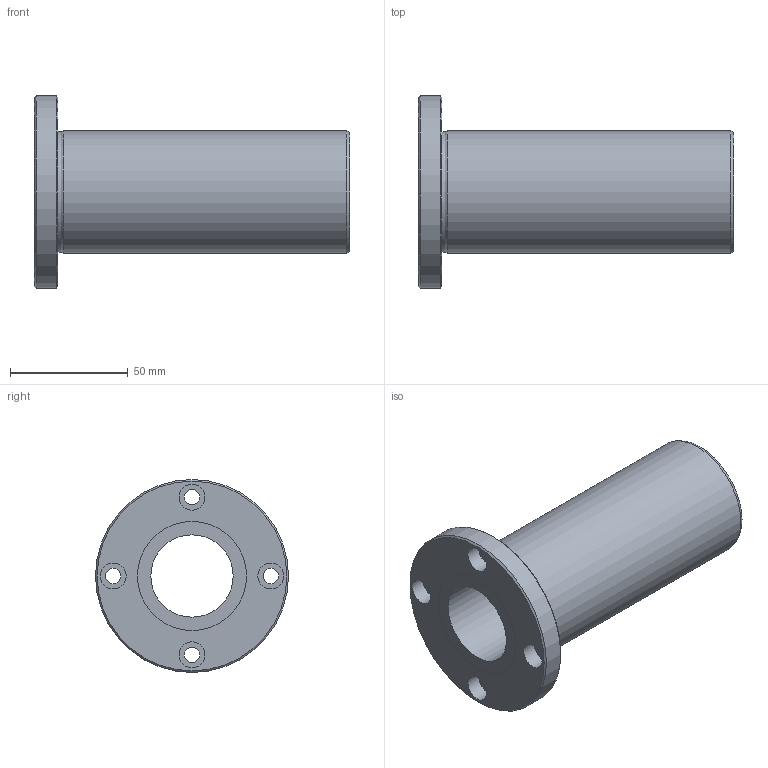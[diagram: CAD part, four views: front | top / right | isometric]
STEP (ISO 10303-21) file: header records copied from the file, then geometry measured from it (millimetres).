
FILE_DESCRIPTION((''),'2;1');
FILE_NAME('D:\製品 (図面)\カタログ用3D\リニアベアリング関連\STEP形式\LFD\LFD35.stp','2010-06-03T09:21:55',('Tsuchiya'),(''),'Autodesk Inventor 10','Autodesk Inventor 10','');
FILE_SCHEMA(('AUTOMOTIVE_DESIGN { 1 0 10303 214 1 1 1 1 }'));
Length unit declared in the file: millimetre
Products named in the file (1): LFD35
Bounding box: 134 x 82 x 82 mm (x, y, z)
Volume: 183793.6 mm3; surface area: 46887.7 mm2
Topology: 1 solids, 1 shells, 26 faces, 47 edges, 30 vertices
Faces by surface type: cylinder 13, plane 9, cone 2, torus 1, bspline 1
Full cylindrical faces by diameter (mm): 6.6 x4, 11 x4, 35 x1, 46.4 x2, 52 x1, 82 x1
Entity records: 665 total; most frequent: CARTESIAN_POINT 149, DIRECTION 112, ORIENTED_EDGE 60, EDGE_LOOP 60, AXIS2_PLACEMENT_3D 56, FACE_BOUND 34, VERTEX_POINT 30, CIRCLE 30
